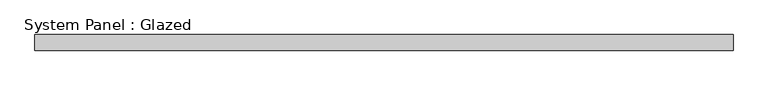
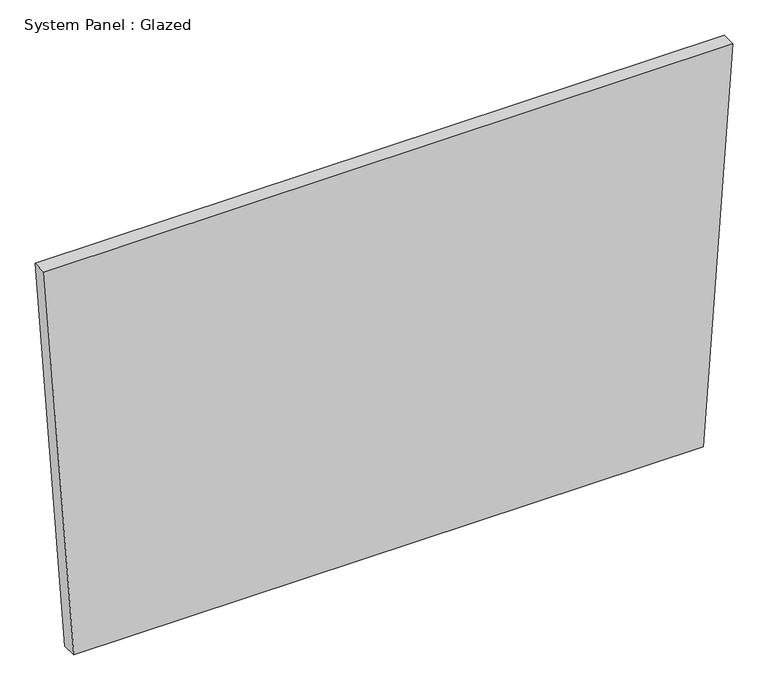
"""IFC4 building model written with IfcOpenShell, lengths in millimetres: plate geometry, System Panel : Glazed."""

import ifcopenshell
import ifcopenshell.guid

model = None  # the IFC model being written
_history = None  # IfcOwnerHistory: only IFC2X3 demands one
_inside = {}  # id of a spatial element -> (the spatial element, [elements in it])
_under = {}  # id of a project, library or spatial element -> (it, [spatial elements below it])
_declared = {}  # id of a project -> (the project, [libraries it declares])
_typed = {}  # id of a type object -> (the type object, [elements of that type])
_made_of = {}  # id of a material, layer set ... -> (it, [elements and type objects made of it])


def new_model(schema):
    """Start an empty IFC model of exactly this schema.

    Asked for "IFC4X3", IfcOpenShell would pick the latest addendum, in which some entities
    have other attributes; the version numbers below select the first issue.
    IFC2X3 requires an IfcOwnerHistory on every rooted entity: one is made here for all.
    """
    global model, _history
    if schema == "IFC4X3":
        model = ifcopenshell.file(schema_version=(4, 3, 0, 0))
    else:
        model = ifcopenshell.file(schema=schema)
    _inside.clear()
    _under.clear()
    _declared.clear()
    _typed.clear()
    _made_of.clear()
    _history = None
    if model.schema == "IFC2X3":
        org = make("IfcOrganization", Name="unknown")
        user = make(
            "IfcPersonAndOrganization",
            ThePerson=make("IfcPerson", FamilyName="unknown"),
            TheOrganization=org,
        )
        app = make(
            "IfcApplication",
            ApplicationDeveloper=org,
            Version="unknown",
            ApplicationFullName="unknown",
            ApplicationIdentifier="unknown",
        )
        _history = make(
            "IfcOwnerHistory",
            OwningUser=user,
            OwningApplication=app,
            ChangeAction="ADDED",
            CreationDate=0,
        )
    return model


def make(cls, **values):
    """One entity of the class cls with the attributes given. An attribute that is None is left unset."""
    return model.create_entity(
        cls, **{name: value for name, value in values.items() if value is not None}
    )


def rooted(cls, **values):
    """An entity with a GlobalId (a new one), such as an element, a storey or a relation."""
    return make(cls, GlobalId=ifcopenshell.guid.new(), OwnerHistory=_history, **values)


def si_unit(unit_type, name, prefix=None):
    """IfcSIUnit, for example si_unit("LENGTHUNIT", "METRE", prefix="MILLI")."""
    return make("IfcSIUnit", UnitType=unit_type, Prefix=prefix, Name=name)


def assignment(units):
    """IfcUnitAssignment: the units of a project."""
    return None if units is None else make("IfcUnitAssignment", Units=units)


def point(xyz):
    """IfcCartesianPoint."""
    return None if xyz is None else make("IfcCartesianPoint", Coordinates=xyz)


def direction(xyz):
    """IfcDirection."""
    return None if xyz is None else make("IfcDirection", DirectionRatios=xyz)


def frame(location, z_axis=None, x_axis=None):
    """IfcAxis2Placement3D, a coordinate frame: its origin and axes. An axis left out is left unset."""
    return make(
        "IfcAxis2Placement3D",
        Location=point(location),
        Axis=direction(z_axis),
        RefDirection=direction(x_axis),
    )


def origin():
    """The frame at (0, 0, 0) with its axes left unset."""
    return frame((0.0, 0.0, 0.0))


def place(relative_to, where):
    """IfcLocalPlacement: puts the frame where relative to a parent placement (None: the world)."""
    return make(
        "IfcLocalPlacement", PlacementRelTo=relative_to, RelativePlacement=where
    )


def context(
    kind, dimensions, precision=None, world=None, true_north=None, identifier=None
):
    """IfcGeometricRepresentationContext, for example the 3D "Model" context."""
    return make(
        "IfcGeometricRepresentationContext",
        ContextIdentifier=identifier,
        ContextType=kind,
        CoordinateSpaceDimension=dimensions,
        Precision=precision,
        WorldCoordinateSystem=world,
        TrueNorth=true_north,
    )


def project(units=None, contexts=None):
    """IfcProject with its units and contexts."""
    return rooted(
        "IfcProject",
        Name="project",
        RepresentationContexts=contexts,
        UnitsInContext=assignment(units),
    )


def spatial(cls, under=None, at=None, **own):
    """A site, building, storey or space (cls), placed at a placement, below another one or the project."""
    s = rooted(cls, ObjectPlacement=at, **own)
    if under is not None:
        _under.setdefault(under.id(), (under, []))[1].append(s)
    return s


def polyline(points):
    """IfcPolyline through the points."""
    return make("IfcPolyline", Points=[point(p) for p in points])


def outline(outer, holes=None, kind="AREA"):
    """IfcArbitraryClosedProfileDef: a profile drawn as a closed curve; with holes, ...WithVoids."""
    if holes is None:
        return make("IfcArbitraryClosedProfileDef", ProfileType=kind, OuterCurve=outer)
    return make(
        "IfcArbitraryProfileDefWithVoids",
        ProfileType=kind,
        OuterCurve=outer,
        InnerCurves=holes,
    )


def extrude(swept, where, along, depth):
    """IfcExtrudedAreaSolid: the profile swept, set in the frame where, extruded along a direction by depth."""
    return make(
        "IfcExtrudedAreaSolid",
        SweptArea=swept,
        Position=where,
        ExtrudedDirection=direction(along),
        Depth=depth,
    )


def shape(context_of_items, identifier, shape_type, items):
    """IfcShapeRepresentation: the items that make up one representation, for example the "Body"."""
    return make(
        "IfcShapeRepresentation",
        ContextOfItems=context_of_items,
        RepresentationIdentifier=identifier,
        RepresentationType=shape_type,
        Items=items,
    )


def source(mapping_origin, context_of_items, identifier, shape_type, items):
    """IfcRepresentationMap: a shape defined once, which mapped items show again and again."""
    return make(
        "IfcRepresentationMap",
        MappingOrigin=mapping_origin,
        MappedRepresentation=shape(context_of_items, identifier, shape_type, items),
    )


def transform(
    local_origin,
    x_axis=None,
    y_axis=None,
    z_axis=None,
    scale=None,
    scale2=None,
    scale3=None,
    uniform=True,
):
    """IfcCartesianTransformationOperator3D, or its non-uniform kind. x_axis, y_axis, z_axis: its Axis1, 2, 3."""
    if uniform:
        return make(
            "IfcCartesianTransformationOperator3D",
            Axis1=direction(x_axis),
            Axis2=direction(y_axis),
            LocalOrigin=point(local_origin),
            Scale=scale,
            Axis3=direction(z_axis),
        )
    return make(
        "IfcCartesianTransformationOperator3DnonUniform",
        Axis1=direction(x_axis),
        Axis2=direction(y_axis),
        LocalOrigin=point(local_origin),
        Scale=scale,
        Axis3=direction(z_axis),
        Scale2=scale2,
        Scale3=scale3,
    )


def mapped(mapping_source, mapping_target):
    """IfcMappedItem: shows the shape of a source again, moved by a transform."""
    return make(
        "IfcMappedItem", MappingSource=mapping_source, MappingTarget=mapping_target
    )


def made_of(thing, what):
    """Note that an element or type object is made of a material, layer set ...; save() writes the relation."""
    if what is not None:
        _made_of.setdefault(what.id(), (what, []))[1].append(thing)
    return thing


def element(
    cls,
    number,
    at=None,
    inside=None,
    cuts=None,
    type_object=None,
    material=None,
    context=None,
    identifier="Body",
    shape_type=None,
    held_by="IfcProductDefinitionShape",
    body=None,
    shapes=None,
    **own,
):
    """One element of the class cls, such as IfcWall. Its Tag is "e" and its number.

    at: its placement. inside: the storey or other place that contains it. cuts: it is an
    opening in that element (IfcRelVoidsElement). A single representation is given by context,
    identifier, shape_type and body (its items); several are given by shapes. held_by: the class
    of the entity that holds the representations. save() writes the other relations.
    """
    e = rooted(cls, Tag="e%d" % number, ObjectPlacement=at, **own)
    if body is not None:
        shapes = [shape(context, identifier, shape_type, body)]
    if shapes is not None:
        e.Representation = make(held_by, Representations=shapes)
    if inside is not None:
        _inside.setdefault(inside.id(), (inside, []))[1].append(e)
    if cuts is not None:
        rooted(
            "IfcRelVoidsElement", RelatingBuildingElement=cuts, RelatedOpeningElement=e
        )
    if type_object is not None:
        _typed.setdefault(type_object.id(), (type_object, []))[1].append(e)
    return made_of(e, material)


def aggregate(whole, parts):
    """IfcRelAggregates: a whole, such as a stair, and the parts it consists of."""
    return rooted("IfcRelAggregates", RelatingObject=whole, RelatedObjects=parts)


def save(model, path):
    """Write the relations noted so far, then the file.

    IfcRelAggregates (storeys below a building ...), IfcRelContainedInSpatialStructure (elements
    in a storey), IfcRelDefinesByType, IfcRelAssociatesMaterial and IfcRelDeclares: one each for
    every whole, place, type object, material and project.
    """
    for whole, parts in _under.values():
        aggregate(whole, parts)
    for where, things in _inside.values():
        rooted(
            "IfcRelContainedInSpatialStructure",
            RelatedElements=things,
            RelatingStructure=where,
        )
    for kind, things in _typed.values():
        rooted("IfcRelDefinesByType", RelatedObjects=things, RelatingType=kind)
    for what, things in _made_of.values():
        rooted("IfcRelAssociatesMaterial", RelatedObjects=things, RelatingMaterial=what)
    for by, libraries in _declared.values():
        rooted("IfcRelDeclares", RelatingContext=by, RelatedDefinitions=libraries)
    model.write(path)


def system_panel_glazed_4134886b(model_context):
    return source(origin(), model_context, "Body", "SweptSolid", [
        extrude(outline(polyline([(0.0, -518.9309293), (0.0, 518.9314681), (684.9216246, 568.198211), (684.9291151, -568.198211), (0.0, -518.9309293)])), frame((0.0, 19.05, 0.0), z_axis=(0.0, 1.0, 0.0), x_axis=(0.0, 0.0, 1.0)), (0.0, 0.0, 1.0), 25.4),
    ])


if __name__ == "__main__":
    model = new_model("IFC4")
    model_context = context("Model", 3, world=origin())
    ifc_project = project(units=[si_unit("LENGTHUNIT", "METRE", prefix="MILLI")], contexts=[model_context])
    site = spatial("IfcSite", under=ifc_project)
    building = spatial("IfcBuilding", under=site)
    placement = place(None, origin())
    system_panel_glazed_shape = system_panel_glazed_4134886b(model_context)
    element("IfcPlate", 1, ObjectType="System Panel : Glazed", at=placement, inside=building, context=model_context, shape_type="MappedRepresentation", body=[
        mapped(system_panel_glazed_shape, transform((0.0, 0.0, 0.0), x_axis=(1.0, 0.0, 0.0), y_axis=(0.0, 1.0, 0.0), z_axis=(0.0, 0.0, 1.0))),
    ])
    save(model, "model.ifc")
